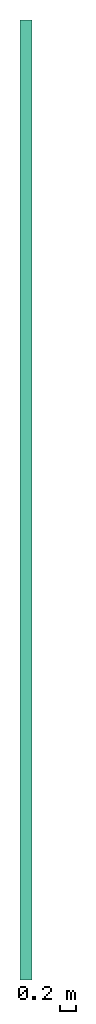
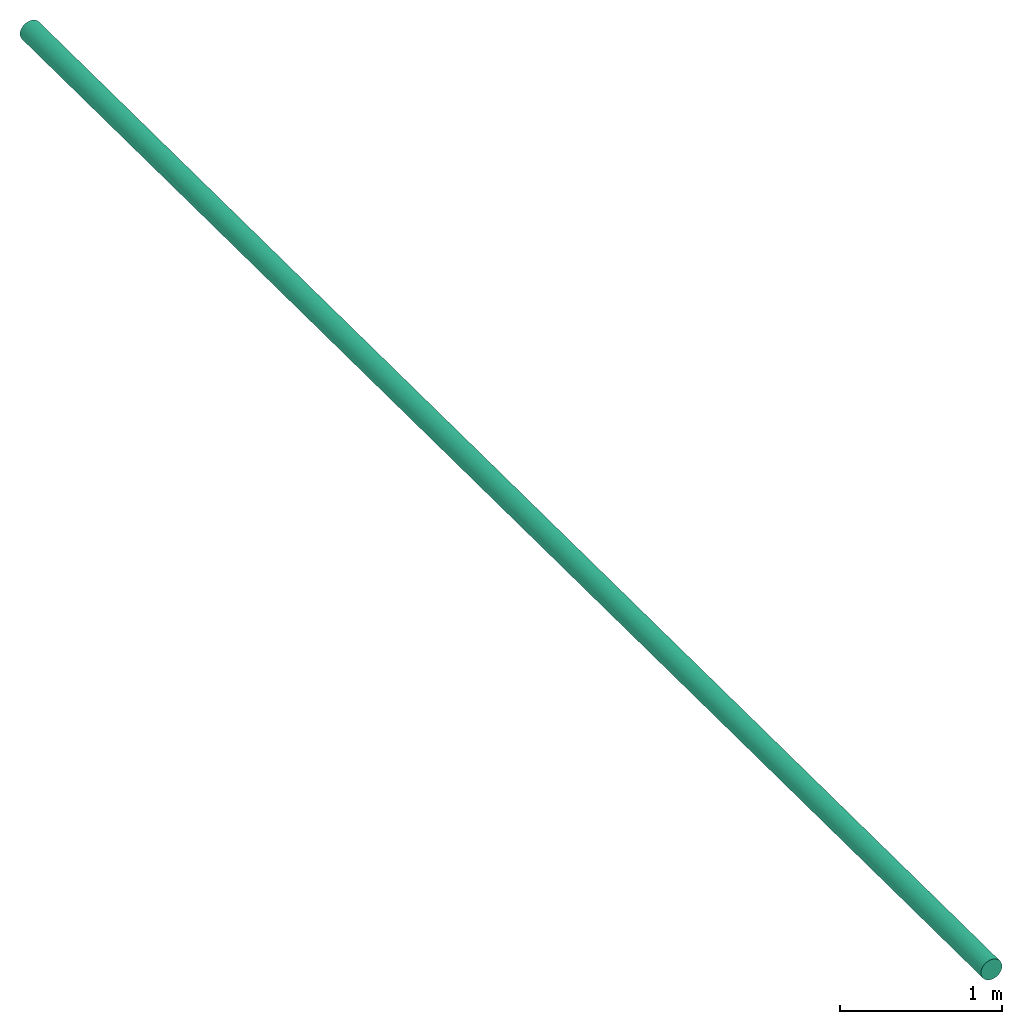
# One storey: 1 flow segment.
"""IFC2X3 building model written with IfcOpenShell, lengths in metres."""

import ifcopenshell
import ifcopenshell.guid

model = None  # the IFC model being written
_history = None  # IfcOwnerHistory: only IFC2X3 demands one
_inside = {}  # id of a spatial element -> (the spatial element, [elements in it])
_under = {}  # id of a project, library or spatial element -> (it, [spatial elements below it])
_declared = {}  # id of a project -> (the project, [libraries it declares])
_typed = {}  # id of a type object -> (the type object, [elements of that type])
_made_of = {}  # id of a material, layer set ... -> (it, [elements and type objects made of it])


def new_model(schema):
    """Start an empty IFC model of exactly this schema.

    Asked for "IFC4X3", IfcOpenShell would pick the latest addendum, in which some entities
    have other attributes; the version numbers below select the first issue.
    IFC2X3 requires an IfcOwnerHistory on every rooted entity: one is made here for all.
    """
    global model, _history
    if schema == "IFC4X3":
        model = ifcopenshell.file(schema_version=(4, 3, 0, 0))
    else:
        model = ifcopenshell.file(schema=schema)
    _inside.clear()
    _under.clear()
    _declared.clear()
    _typed.clear()
    _made_of.clear()
    _history = None
    if model.schema == "IFC2X3":
        org = make("IfcOrganization", Name="unknown")
        user = make(
            "IfcPersonAndOrganization",
            ThePerson=make("IfcPerson", FamilyName="unknown"),
            TheOrganization=org,
        )
        app = make(
            "IfcApplication",
            ApplicationDeveloper=org,
            Version="unknown",
            ApplicationFullName="unknown",
            ApplicationIdentifier="unknown",
        )
        _history = make(
            "IfcOwnerHistory",
            OwningUser=user,
            OwningApplication=app,
            ChangeAction="ADDED",
            CreationDate=0,
        )
    return model


def make(cls, **values):
    """One entity of the class cls with the attributes given. An attribute that is None is left unset."""
    return model.create_entity(
        cls, **{name: value for name, value in values.items() if value is not None}
    )


def entity(cls, *values):
    """Any entity or typed value of the class cls, its attributes in the order of the schema. None: left unset."""
    e = model.create_entity(cls)
    for i, value in enumerate(values):
        if value is not None:
            e[i] = value
    return e


def rooted(cls, **values):
    """An entity with a GlobalId (a new one), such as an element, a storey or a relation."""
    return make(cls, GlobalId=ifcopenshell.guid.new(), OwnerHistory=_history, **values)


def si_unit(unit_type, name, prefix=None):
    """IfcSIUnit, for example si_unit("LENGTHUNIT", "METRE", prefix="MILLI")."""
    return make("IfcSIUnit", UnitType=unit_type, Prefix=prefix, Name=name)


def converted_unit(unit_type, name, factor, base, dimensions=None, offset=None):
    """IfcConversionBasedUnit, such as the inch: factor (a typed value) times the base unit."""
    return make(
        "IfcConversionBasedUnit"
        if offset is None
        else "IfcConversionBasedUnitWithOffset",
        ConversionOffset=offset,
        Dimensions=None
        if dimensions is None
        else entity("IfcDimensionalExponents", *dimensions),
        UnitType=unit_type,
        Name=name,
        ConversionFactor=make(
            "IfcMeasureWithUnit", ValueComponent=factor, UnitComponent=base
        ),
    )


def assignment(units):
    """IfcUnitAssignment: the units of a project."""
    return None if units is None else make("IfcUnitAssignment", Units=units)


def point(xyz):
    """IfcCartesianPoint."""
    return None if xyz is None else make("IfcCartesianPoint", Coordinates=xyz)


def direction(xyz):
    """IfcDirection."""
    return None if xyz is None else make("IfcDirection", DirectionRatios=xyz)


def frame(location, z_axis=None, x_axis=None):
    """IfcAxis2Placement3D, a coordinate frame: its origin and axes. An axis left out is left unset."""
    return make(
        "IfcAxis2Placement3D",
        Location=point(location),
        Axis=direction(z_axis),
        RefDirection=direction(x_axis),
    )


def frame_2d(location, x_axis=None):
    """IfcAxis2Placement2D, a coordinate frame in the plane: its origin and x axis."""
    return make(
        "IfcAxis2Placement2D", Location=point(location), RefDirection=direction(x_axis)
    )


def origin():
    """The frame at (0, 0, 0) with its axes left unset."""
    return frame((0.0, 0.0, 0.0))


def place(relative_to, where):
    """IfcLocalPlacement: puts the frame where relative to a parent placement (None: the world)."""
    return make(
        "IfcLocalPlacement", PlacementRelTo=relative_to, RelativePlacement=where
    )


def context(
    kind, dimensions, precision=None, world=None, true_north=None, identifier=None
):
    """IfcGeometricRepresentationContext, for example the 3D "Model" context."""
    return make(
        "IfcGeometricRepresentationContext",
        ContextIdentifier=identifier,
        ContextType=kind,
        CoordinateSpaceDimension=dimensions,
        Precision=precision,
        WorldCoordinateSystem=world,
        TrueNorth=true_north,
    )


def subcontext(parent, identifier, kind, view, scale=None):
    """IfcGeometricRepresentationSubContext, for example "Body" below "Model"."""
    return make(
        "IfcGeometricRepresentationSubContext",
        ContextIdentifier=identifier,
        ContextType=kind,
        ParentContext=parent,
        TargetScale=scale,
        TargetView=view,
    )


def project(units=None, contexts=None):
    """IfcProject with its units and contexts."""
    return rooted(
        "IfcProject",
        Name="project",
        RepresentationContexts=contexts,
        UnitsInContext=assignment(units),
    )


def spatial(cls, under=None, at=None, **own):
    """A site, building, storey or space (cls), placed at a placement, below another one or the project."""
    s = rooted(cls, ObjectPlacement=at, **own)
    if under is not None:
        _under.setdefault(under.id(), (under, []))[1].append(s)
    return s


def profile(cls, at=None, kind="AREA", **sizes):
    """A parametric profile (cls). Its sizes go by their IFC names, for example OverallWidth=200.0."""
    return make(cls, ProfileType=kind, Position=at, **sizes)


def circle(**sizes):
    """IfcCircleProfileDef."""
    return profile("IfcCircleProfileDef", **sizes)


def extrude(swept, where, along, depth):
    """IfcExtrudedAreaSolid: the profile swept, set in the frame where, extruded along a direction by depth."""
    return make(
        "IfcExtrudedAreaSolid",
        SweptArea=swept,
        Position=where,
        ExtrudedDirection=direction(along),
        Depth=depth,
    )


def shape(context_of_items, identifier, shape_type, items):
    """IfcShapeRepresentation: the items that make up one representation, for example the "Body"."""
    return make(
        "IfcShapeRepresentation",
        ContextOfItems=context_of_items,
        RepresentationIdentifier=identifier,
        RepresentationType=shape_type,
        Items=items,
    )


def made_of(thing, what):
    """Note that an element or type object is made of a material, layer set ...; save() writes the relation."""
    if what is not None:
        _made_of.setdefault(what.id(), (what, []))[1].append(thing)
    return thing


def type_object(cls, material=None, **own):
    """A type object (cls), such as IfcWallType, which elements share."""
    return made_of(rooted(cls, **own), material)


def element(
    cls,
    number,
    at=None,
    inside=None,
    cuts=None,
    type_object=None,
    material=None,
    context=None,
    identifier="Body",
    shape_type=None,
    held_by="IfcProductDefinitionShape",
    body=None,
    shapes=None,
    **own,
):
    """One element of the class cls, such as IfcWall. Its Tag is "e" and its number.

    at: its placement. inside: the storey or other place that contains it. cuts: it is an
    opening in that element (IfcRelVoidsElement). A single representation is given by context,
    identifier, shape_type and body (its items); several are given by shapes. held_by: the class
    of the entity that holds the representations. save() writes the other relations.
    """
    e = rooted(cls, Tag="e%d" % number, ObjectPlacement=at, **own)
    if body is not None:
        shapes = [shape(context, identifier, shape_type, body)]
    if shapes is not None:
        e.Representation = make(held_by, Representations=shapes)
    if inside is not None:
        _inside.setdefault(inside.id(), (inside, []))[1].append(e)
    if cuts is not None:
        rooted(
            "IfcRelVoidsElement", RelatingBuildingElement=cuts, RelatedOpeningElement=e
        )
    if type_object is not None:
        _typed.setdefault(type_object.id(), (type_object, []))[1].append(e)
    return made_of(e, material)


def aggregate(whole, parts):
    """IfcRelAggregates: a whole, such as a stair, and the parts it consists of."""
    return rooted("IfcRelAggregates", RelatingObject=whole, RelatedObjects=parts)


def save(model, path):
    """Write the relations noted so far, then the file.

    IfcRelAggregates (storeys below a building ...), IfcRelContainedInSpatialStructure (elements
    in a storey), IfcRelDefinesByType, IfcRelAssociatesMaterial and IfcRelDeclares: one each for
    every whole, place, type object, material and project.
    """
    for whole, parts in _under.values():
        aggregate(whole, parts)
    for where, things in _inside.values():
        rooted(
            "IfcRelContainedInSpatialStructure",
            RelatedElements=things,
            RelatingStructure=where,
        )
    for kind, things in _typed.values():
        rooted("IfcRelDefinesByType", RelatedObjects=things, RelatingType=kind)
    for what, things in _made_of.values():
        rooted("IfcRelAssociatesMaterial", RelatedObjects=things, RelatingMaterial=what)
    for by, libraries in _declared.values():
        rooted("IfcRelDeclares", RelatingContext=by, RelatedDefinitions=libraries)
    model.write(path)


model = new_model("IFC2X3")

# Units and contexts
model_context = context("Model", 3, precision=1e-05, world=origin(), true_north=direction((6.123233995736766e-17, 1.0)))
body_context = subcontext(model_context, "Body", "Model", "MODEL_VIEW")
ifc_project = project(units=[si_unit("LENGTHUNIT", "METRE"), converted_unit("PLANEANGLEUNIT", "DEGREE", entity("IfcPlaneAngleMeasure", 0.017453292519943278), si_unit("PLANEANGLEUNIT", "RADIAN"), dimensions=[0, 0, 0, 0, 0, 0, 0]), si_unit("AREAUNIT", "SQUARE_METRE")], contexts=[model_context])

# Site, building, storey
site_placement = place(None, origin())
site = spatial("IfcSite", under=ifc_project, at=site_placement, Name="Default", CompositionType="ELEMENT")
building_placement = place(site_placement, origin())
building = spatial("IfcBuilding", under=site, at=building_placement, Name="CASA DE ACOLHIDA PARA IDOSOS", CompositionType="ELEMENT")
storey_placement = place(building_placement, origin())
storey = spatial("IfcBuildingStorey", under=building, at=storey_placement, Name="NIVEL 0", CompositionType="ELEMENT", Elevation=0.0)

# Flow segment
pipe_segment_type = type_object("IfcPipeSegmentType", Name="Tipos de tubos:PLUV_Tubo Série Reforçada", PredefinedType="NOTDEFINED")
flow_segment_placement = place(storey_placement, origin())
element("IfcFlowSegment", 1, at=flow_segment_placement, inside=storey, type_object=pipe_segment_type, Name="Tipos de tubos:PLUV_Tubo Série Reforçada", ObjectType="Tipos de tubos:PLUV_Tubo Série Reforçada", context=body_context, shape_type="SweptSolid", body=[
    extrude(circle(Radius=0.07500000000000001, at=frame_2d((0.0, 8.66250392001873e-17), x_axis=(1.0, 0.0))), frame((-55.816366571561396, 68.21669226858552, -2.5068045), z_axis=(0.0, -0.9999500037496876, 0.009999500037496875), x_axis=(1.0, 0.0, 0.0)), (0.0, 0.0, 1.0), 11.89104450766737),
])

save(model, "model.ifc")
